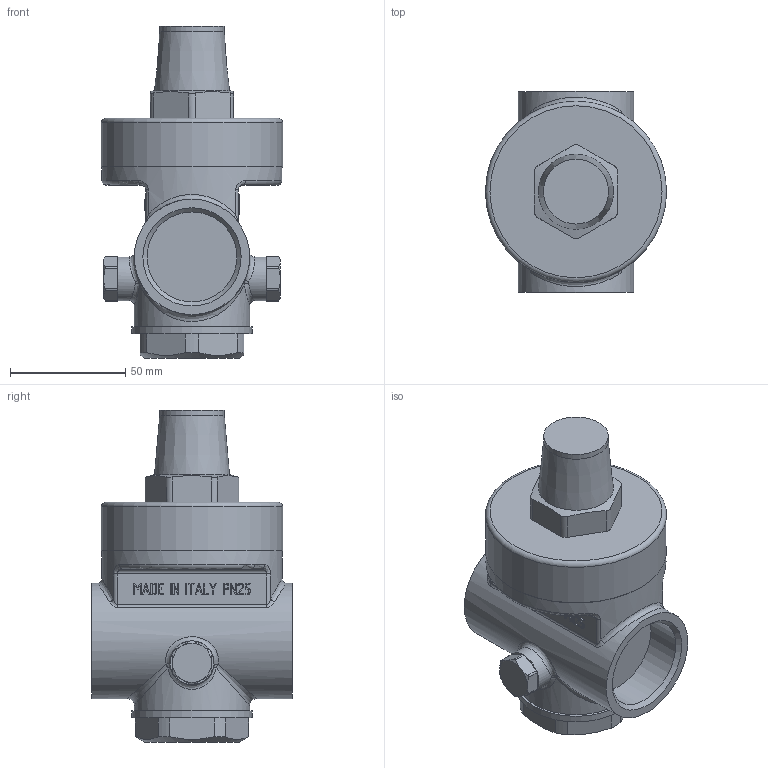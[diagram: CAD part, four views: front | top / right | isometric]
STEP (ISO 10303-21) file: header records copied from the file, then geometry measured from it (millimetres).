
FILE_DESCRIPTION(('STEP AP242'), '1');
FILE_NAME('VT.087.N.0745', '', ('UNSPECIFIED'), ('UNSPECIFIED'), 'C3D Converter', 'C3D Toolkit', '');
FILE_SCHEMA(('AP242_MANAGED_MODEL_BASED_3D_ENGINEERING_MIM_LF { 1 0 10303 442 1 1 4 }'));
Length unit declared in the file: millimetre
Bounding box: 78.5 x 87 x 143.8 mm (x, y, z)
Volume: 378938.9 mm3; surface area: 43767.2 mm2
Topology: 1 solids, 1 shells, 559 faces, 1517 edges, 995 vertices
Faces by surface type: plane 240, extrusion 238, cylinder 42, bspline 20, cone 16, torus 3
Full cylindrical faces by diameter (mm): 19 x2, 28.1 x1, 38.953 x2, 50 x2, 52.2 x1, 78 x1, 78.5 x1
Entity records: 22400 total; most frequent: CARTESIAN_POINT 9646, ORIENTED_EDGE 2944, DIRECTION 1832, EDGE_CURVE 1472, VECTOR 1038, VERTEX_POINT 974, B_SPLINE_CURVE_WITH_KNOTS 816, LINE 800
